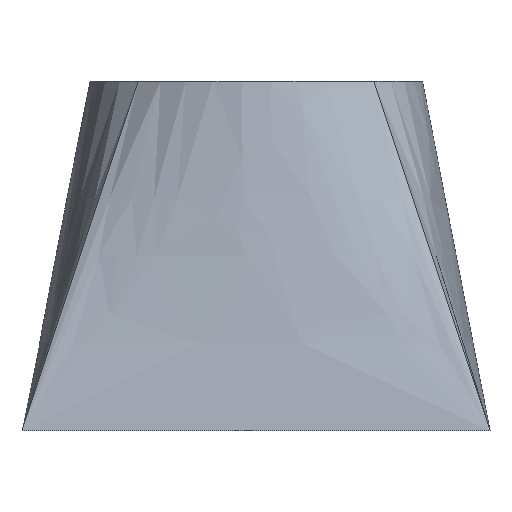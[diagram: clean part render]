
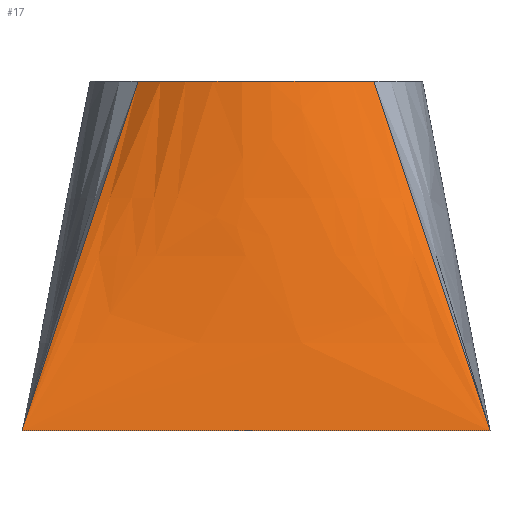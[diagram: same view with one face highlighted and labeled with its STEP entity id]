
A CAD part, front view. The second image highlights one B-rep face of the part: STEP entity #17.
In plain terms, the highlighted free-form (B-spline) face has degree [8, 1] with [9, 2] control points.
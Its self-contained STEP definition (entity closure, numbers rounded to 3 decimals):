
#17 = ADVANCED_FACE('',(#18),#32,.T.);
#18 = FACE_BOUND('',#19,.T.);
#19 = EDGE_LOOP('',(#20,#69,#108,#136));
#20 = ORIENTED_EDGE('',*,*,#21,.T.);
#21 = EDGE_CURVE('',#22,#24,#26,.T.);
#22 = VERTEX_POINT('',#23);
#23 = CARTESIAN_POINT('',(-30.,-30.,0.));
#24 = VERTEX_POINT('',#25);
#25 = CARTESIAN_POINT('',(30.,-30.,0.));
#26 = SURFACE_CURVE('',#27,(#31,#57),.PCURVE_S1.);
#27 = LINE('',#28,#29);
#28 = CARTESIAN_POINT('',(-30.,-30.,0.));
#29 = VECTOR('',#30,1.);
#30 = DIRECTION('',(1.,0.,0.));
#31 = PCURVE('',#32,#51);
#32 = B_SPLINE_SURFACE_WITH_KNOTS('',8,1,(
    (#33,#34)
    ,(#35,#36)
    ,(#37,#38)
    ,(#39,#40)
    ,(#41,#42)
    ,(#43,#44)
    ,(#45,#46)
    ,(#47,#48)
    ,(#49,#50)),.UNSPECIFIED.,.F.,.F.,.F.,(9,9),(2,2),(0.,60.),(0.,1.),
  .PIECEWISE_BEZIER_KNOTS.);
#33 = CARTESIAN_POINT('',(-30.,-30.,0.));
#34 = CARTESIAN_POINT('',(-15.097,-15.097,44.8));
#35 = CARTESIAN_POINT('',(-22.5,-30.,0.));
#36 = CARTESIAN_POINT('',(-12.132,-18.061,44.8));
#37 = CARTESIAN_POINT('',(-15.,-30.,0.));
#38 = CARTESIAN_POINT('',(-8.503,-20.36,44.8));
#39 = CARTESIAN_POINT('',(-7.5,-30.,0.));
#40 = CARTESIAN_POINT('',(-4.383,-21.82,
    44.8));
#41 = CARTESIAN_POINT('',(0.,-30.,0.));
#42 = CARTESIAN_POINT('',(0.,-22.321,
    44.8));
#43 = CARTESIAN_POINT('',(7.5,-30.,0.));
#44 = CARTESIAN_POINT('',(4.383,-21.82,44.8
    ));
#45 = CARTESIAN_POINT('',(15.,-30.,0.));
#46 = CARTESIAN_POINT('',(8.503,-20.36,44.8));
#47 = CARTESIAN_POINT('',(22.5,-30.,0.));
#48 = CARTESIAN_POINT('',(12.132,-18.061,44.8));
#49 = CARTESIAN_POINT('',(30.,-30.,0.));
#50 = CARTESIAN_POINT('',(15.097,-15.097,44.8));
#51 = DEFINITIONAL_REPRESENTATION('',(#52),#56);
#52 = LINE('',#53,#54);
#53 = CARTESIAN_POINT('',(0.,0.));
#54 = VECTOR('',#55,1.);
#55 = DIRECTION('',(1.,0.));
#56 = ( GEOMETRIC_REPRESENTATION_CONTEXT(2) 
PARAMETRIC_REPRESENTATION_CONTEXT() REPRESENTATION_CONTEXT('2D SPACE',''
  ) );
#57 = PCURVE('',#58,#63);
#58 = PLANE('',#59);
#59 = AXIS2_PLACEMENT_3D('',#60,#61,#62);
#60 = CARTESIAN_POINT('',(-30.,-30.,0.));
#61 = DIRECTION('',(0.,0.,-1.));
#62 = DIRECTION('',(0.707,0.707,0.));
#63 = DEFINITIONAL_REPRESENTATION('',(#64),#68);
#64 = LINE('',#65,#66);
#65 = CARTESIAN_POINT('',(0.,0.));
#66 = VECTOR('',#67,1.);
#67 = DIRECTION('',(0.707,0.707));
#68 = ( GEOMETRIC_REPRESENTATION_CONTEXT(2) 
PARAMETRIC_REPRESENTATION_CONTEXT() REPRESENTATION_CONTEXT('2D SPACE',''
  ) );
#69 = ORIENTED_EDGE('',*,*,#70,.T.);
#70 = EDGE_CURVE('',#24,#71,#73,.T.);
#71 = VERTEX_POINT('',#72);
#72 = CARTESIAN_POINT('',(15.097,-15.097,44.8));
#73 = SURFACE_CURVE('',#74,(#77,#84),.PCURVE_S1.);
#74 = B_SPLINE_CURVE_WITH_KNOTS('',1,(#75,#76),.UNSPECIFIED.,.F.,.F.,(2,
    2),(0.,1.),.PIECEWISE_BEZIER_KNOTS.);
#75 = CARTESIAN_POINT('',(30.,-30.,0.));
#76 = CARTESIAN_POINT('',(15.097,-15.097,44.8));
#77 = PCURVE('',#32,#78);
#78 = DEFINITIONAL_REPRESENTATION('',(#79),#83);
#79 = LINE('',#80,#81);
#80 = CARTESIAN_POINT('',(60.,0.));
#81 = VECTOR('',#82,1.);
#82 = DIRECTION('',(0.,1.));
#83 = ( GEOMETRIC_REPRESENTATION_CONTEXT(2) 
PARAMETRIC_REPRESENTATION_CONTEXT() REPRESENTATION_CONTEXT('2D SPACE',''
  ) );
#84 = PCURVE('',#85,#102);
#85 = B_SPLINE_SURFACE_WITH_KNOTS('',7,1,(
    (#86,#87)
    ,(#88,#89)
    ,(#90,#91)
    ,(#92,#93)
    ,(#94,#95)
    ,(#96,#97)
    ,(#98,#99)
    ,(#100,#101
  )),.UNSPECIFIED.,.F.,.F.,.F.,(8,8),(2,2),(0.,30.),(0.,1.),
  .PIECEWISE_BEZIER_KNOTS.);
#86 = CARTESIAN_POINT('',(30.,-30.,0.));
#87 = CARTESIAN_POINT('',(15.097,-15.097,44.8));
#88 = CARTESIAN_POINT('',(30.,-25.714,0.));
#89 = CARTESIAN_POINT('',(16.791,-13.403,44.8));
#90 = CARTESIAN_POINT('',(30.,-21.429,0.));
#91 = CARTESIAN_POINT('',(18.263,-11.487,44.8));
#92 = CARTESIAN_POINT('',(30.,-17.143,0.));
#93 = CARTESIAN_POINT('',(19.478,-9.385,44.8));
#94 = CARTESIAN_POINT('',(30.,-12.857,0.));
#95 = CARTESIAN_POINT('',(20.409,-7.137,44.8));
#96 = CARTESIAN_POINT('',(30.,-8.571,0.));
#97 = CARTESIAN_POINT('',(21.036,-4.791,44.8));
#98 = CARTESIAN_POINT('',(30.,-4.286,0.));
#99 = CARTESIAN_POINT('',(21.35,-2.395,44.8));
#100 = CARTESIAN_POINT('',(30.,0.,0.));
#101 = CARTESIAN_POINT('',(21.35,0.,44.8));
#102 = DEFINITIONAL_REPRESENTATION('',(#103),#107);
#103 = LINE('',#104,#105);
#104 = CARTESIAN_POINT('',(0.,0.));
#105 = VECTOR('',#106,1.);
#106 = DIRECTION('',(0.,1.));
#107 = ( GEOMETRIC_REPRESENTATION_CONTEXT(2) 
PARAMETRIC_REPRESENTATION_CONTEXT() REPRESENTATION_CONTEXT('2D SPACE',''
  ) );
#108 = ORIENTED_EDGE('',*,*,#109,.F.);
#109 = EDGE_CURVE('',#110,#71,#112,.T.);
#110 = VERTEX_POINT('',#111);
#111 = CARTESIAN_POINT('',(-15.097,-15.097,44.8));
#112 = SURFACE_CURVE('',#113,(#118,#124),.PCURVE_S1.);
#113 = CIRCLE('',#114,21.35);
#114 = AXIS2_PLACEMENT_3D('',#115,#116,#117);
#115 = CARTESIAN_POINT('',(0.,0.,44.8));
#116 = DIRECTION('',(0.,0.,1.));
#117 = DIRECTION('',(1.,0.,0.));
#118 = PCURVE('',#32,#119);
#119 = DEFINITIONAL_REPRESENTATION('',(#120),#123);
#120 = B_SPLINE_CURVE_WITH_KNOTS('',1,(#121,#122),.UNSPECIFIED.,.F.,.F.,
  (2,2),(3.927,5.498),.PIECEWISE_BEZIER_KNOTS.);
#121 = CARTESIAN_POINT('',(0.,1.));
#122 = CARTESIAN_POINT('',(60.,1.));
#123 = ( GEOMETRIC_REPRESENTATION_CONTEXT(2) 
PARAMETRIC_REPRESENTATION_CONTEXT() REPRESENTATION_CONTEXT('2D SPACE',''
  ) );
#124 = PCURVE('',#125,#130);
#125 = PLANE('',#126);
#126 = AXIS2_PLACEMENT_3D('',#127,#128,#129);
#127 = CARTESIAN_POINT('',(0.,0.,44.8));
#128 = DIRECTION('',(0.,0.,1.));
#129 = DIRECTION('',(1.,0.,0.));
#130 = DEFINITIONAL_REPRESENTATION('',(#131),#135);
#131 = CIRCLE('',#132,21.35);
#132 = AXIS2_PLACEMENT_2D('',#133,#134);
#133 = CARTESIAN_POINT('',(0.,0.));
#134 = DIRECTION('',(1.,0.));
#135 = ( GEOMETRIC_REPRESENTATION_CONTEXT(2) 
PARAMETRIC_REPRESENTATION_CONTEXT() REPRESENTATION_CONTEXT('2D SPACE',''
  ) );
#136 = ORIENTED_EDGE('',*,*,#137,.F.);
#137 = EDGE_CURVE('',#22,#110,#138,.T.);
#138 = SURFACE_CURVE('',#139,(#142,#149),.PCURVE_S1.);
#139 = B_SPLINE_CURVE_WITH_KNOTS('',1,(#140,#141),.UNSPECIFIED.,.F.,.F.,
  (2,2),(0.,1.),.PIECEWISE_BEZIER_KNOTS.);
#140 = CARTESIAN_POINT('',(-30.,-30.,0.));
#141 = CARTESIAN_POINT('',(-15.097,-15.097,44.8));
#142 = PCURVE('',#32,#143);
#143 = DEFINITIONAL_REPRESENTATION('',(#144),#148);
#144 = LINE('',#145,#146);
#145 = CARTESIAN_POINT('',(0.,0.));
#146 = VECTOR('',#147,1.);
#147 = DIRECTION('',(0.,1.));
#148 = ( GEOMETRIC_REPRESENTATION_CONTEXT(2) 
PARAMETRIC_REPRESENTATION_CONTEXT() REPRESENTATION_CONTEXT('2D SPACE',''
  ) );
#149 = PCURVE('',#150,#169);
#150 = B_SPLINE_SURFACE_WITH_KNOTS('',8,1,(
    (#151,#152)
    ,(#153,#154)
    ,(#155,#156)
    ,(#157,#158)
    ,(#159,#160)
    ,(#161,#162)
    ,(#163,#164)
    ,(#165,#166)
    ,(#167,#168
  )),.UNSPECIFIED.,.F.,.F.,.F.,(9,9),(2,2),(0.,60.),(0.,1.),
  .PIECEWISE_BEZIER_KNOTS.);
#151 = CARTESIAN_POINT('',(-30.,30.,0.));
#152 = CARTESIAN_POINT('',(-15.097,15.097,44.8));
#153 = CARTESIAN_POINT('',(-30.,22.5,0.));
#154 = CARTESIAN_POINT('',(-18.061,12.132,44.8));
#155 = CARTESIAN_POINT('',(-30.,15.,0.));
#156 = CARTESIAN_POINT('',(-20.36,8.503,
    44.8));
#157 = CARTESIAN_POINT('',(-30.,7.5,0.));
#158 = CARTESIAN_POINT('',(-21.82,4.383,
    44.8));
#159 = CARTESIAN_POINT('',(-30.,0.,0.));
#160 = CARTESIAN_POINT('',(-22.321,0.,
    44.8));
#161 = CARTESIAN_POINT('',(-30.,-7.5,0.));
#162 = CARTESIAN_POINT('',(-21.82,-4.383,
    44.8));
#163 = CARTESIAN_POINT('',(-30.,-15.,0.));
#164 = CARTESIAN_POINT('',(-20.36,-8.503,44.8
    ));
#165 = CARTESIAN_POINT('',(-30.,-22.5,0.));
#166 = CARTESIAN_POINT('',(-18.061,-12.132,44.8));
#167 = CARTESIAN_POINT('',(-30.,-30.,0.));
#168 = CARTESIAN_POINT('',(-15.097,-15.097,44.8));
#169 = DEFINITIONAL_REPRESENTATION('',(#170),#174);
#170 = LINE('',#171,#172);
#171 = CARTESIAN_POINT('',(60.,0.));
#172 = VECTOR('',#173,1.);
#173 = DIRECTION('',(0.,1.));
#174 = ( GEOMETRIC_REPRESENTATION_CONTEXT(2) 
PARAMETRIC_REPRESENTATION_CONTEXT() REPRESENTATION_CONTEXT('2D SPACE',''
  ) );
